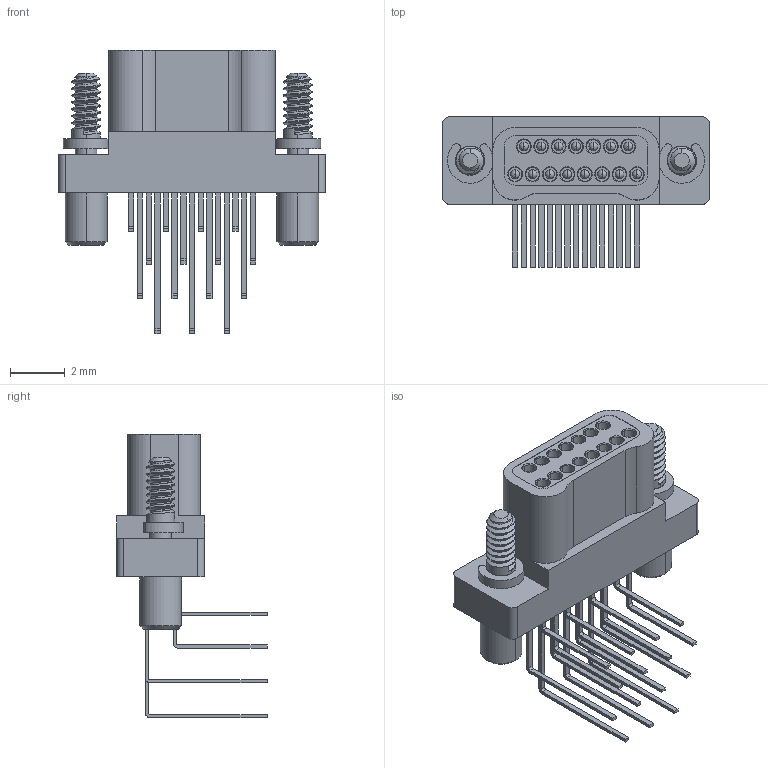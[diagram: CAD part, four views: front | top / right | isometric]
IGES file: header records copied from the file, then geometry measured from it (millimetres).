
Start section:  PTC IGES file: c-1589481-3-u-3d.igs
Global section: file name: c-1589481-3-u-3d.igs; native system: Creo Parametric by Parametric Technology Corporation; preprocessor: 2013050; author: workeradm; organization: Unknown; units: millimetre
Bounding box: 9.74 x 5.49 x 10.34 mm (x, y, z)
Surface area: 343.8 mm2 (no closed solid volume)
Topology: 0 solids, 0 shells, 420 faces, 2028 edges, 2028 vertices
Faces by surface type: revolution 222, bspline 198
